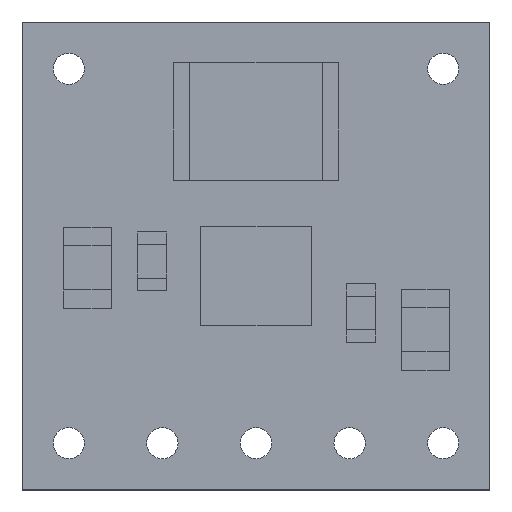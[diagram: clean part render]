
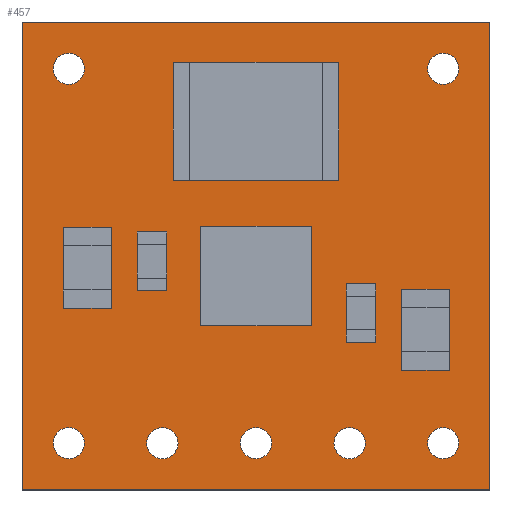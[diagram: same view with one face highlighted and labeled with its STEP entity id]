
A CAD part, top view. The second image highlights one B-rep face of the part: STEP entity #457.
In plain terms, the highlighted planar face has unit normal (0, 0, 1).
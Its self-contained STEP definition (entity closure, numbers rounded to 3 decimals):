
#76 = VERTEX_POINT('',#77);
#77 = CARTESIAN_POINT('',(0.,0.,0.999));
#83 = EDGE_CURVE('',#76,#84,#86,.T.);
#84 = VERTEX_POINT('',#85);
#85 = CARTESIAN_POINT('',(12.7,0.,0.999));
#86 = LINE('',#87,#88);
#87 = CARTESIAN_POINT('',(0.,0.,0.999));
#88 = VECTOR('',#89,1.);
#89 = DIRECTION('',(1.,0.,0.));
#114 = EDGE_CURVE('',#84,#115,#117,.T.);
#115 = VERTEX_POINT('',#116);
#116 = CARTESIAN_POINT('',(12.7,12.7,0.999));
#117 = LINE('',#118,#119);
#118 = CARTESIAN_POINT('',(12.7,0.,0.999));
#119 = VECTOR('',#120,1.);
#120 = DIRECTION('',(0.,1.,0.));
#145 = EDGE_CURVE('',#115,#146,#148,.T.);
#146 = VERTEX_POINT('',#147);
#147 = CARTESIAN_POINT('',(0.,12.7,0.999));
#148 = LINE('',#149,#150);
#149 = CARTESIAN_POINT('',(12.7,12.7,0.999));
#150 = VECTOR('',#151,1.);
#151 = DIRECTION('',(-1.,0.,0.));
#176 = EDGE_CURVE('',#146,#76,#177,.T.);
#177 = LINE('',#178,#179);
#178 = CARTESIAN_POINT('',(0.,12.7,0.999));
#179 = VECTOR('',#180,1.);
#180 = DIRECTION('',(0.,-1.,0.));
#200 = VERTEX_POINT('',#201);
#201 = CARTESIAN_POINT('',(1.695,1.27,0.999));
#207 = EDGE_CURVE('',#200,#200,#208,.T.);
#208 = CIRCLE('',#209,0.425);
#209 = AXIS2_PLACEMENT_3D('',#210,#211,#212);
#210 = CARTESIAN_POINT('',(1.27,1.27,0.999));
#211 = DIRECTION('',(0.,0.,1.));
#212 = DIRECTION('',(1.,0.,-0.));
#233 = VERTEX_POINT('',#234);
#234 = CARTESIAN_POINT('',(1.695,11.43,0.999));
#240 = EDGE_CURVE('',#233,#233,#241,.T.);
#241 = CIRCLE('',#242,0.425);
#242 = AXIS2_PLACEMENT_3D('',#243,#244,#245);
#243 = CARTESIAN_POINT('',(1.27,11.43,0.999));
#244 = DIRECTION('',(0.,0.,1.));
#245 = DIRECTION('',(1.,0.,-0.));
#266 = VERTEX_POINT('',#267);
#267 = CARTESIAN_POINT('',(4.235,1.27,0.999));
#273 = EDGE_CURVE('',#266,#266,#274,.T.);
#274 = CIRCLE('',#275,0.425);
#275 = AXIS2_PLACEMENT_3D('',#276,#277,#278);
#276 = CARTESIAN_POINT('',(3.81,1.27,0.999));
#277 = DIRECTION('',(0.,0.,1.));
#278 = DIRECTION('',(1.,0.,-0.));
#299 = VERTEX_POINT('',#300);
#300 = CARTESIAN_POINT('',(6.775,1.27,0.999));
#306 = EDGE_CURVE('',#299,#299,#307,.T.);
#307 = CIRCLE('',#308,0.425);
#308 = AXIS2_PLACEMENT_3D('',#309,#310,#311);
#309 = CARTESIAN_POINT('',(6.35,1.27,0.999));
#310 = DIRECTION('',(0.,0.,1.));
#311 = DIRECTION('',(1.,0.,-0.));
#332 = VERTEX_POINT('',#333);
#333 = CARTESIAN_POINT('',(9.315,1.27,0.999));
#339 = EDGE_CURVE('',#332,#332,#340,.T.);
#340 = CIRCLE('',#341,0.425);
#341 = AXIS2_PLACEMENT_3D('',#342,#343,#344);
#342 = CARTESIAN_POINT('',(8.89,1.27,0.999));
#343 = DIRECTION('',(0.,0.,1.));
#344 = DIRECTION('',(1.,0.,-0.));
#365 = VERTEX_POINT('',#366);
#366 = CARTESIAN_POINT('',(11.855,11.43,0.999));
#372 = EDGE_CURVE('',#365,#365,#373,.T.);
#373 = CIRCLE('',#374,0.425);
#374 = AXIS2_PLACEMENT_3D('',#375,#376,#377);
#375 = CARTESIAN_POINT('',(11.43,11.43,0.999));
#376 = DIRECTION('',(0.,0.,1.));
#377 = DIRECTION('',(1.,0.,-0.));
#398 = VERTEX_POINT('',#399);
#399 = CARTESIAN_POINT('',(11.855,1.27,0.999));
#405 = EDGE_CURVE('',#398,#398,#406,.T.);
#406 = CIRCLE('',#407,0.425);
#407 = AXIS2_PLACEMENT_3D('',#408,#409,#410);
#408 = CARTESIAN_POINT('',(11.43,1.27,0.999));
#409 = DIRECTION('',(0.,0.,1.));
#410 = DIRECTION('',(1.,0.,-0.));
#457 = ADVANCED_FACE('',(#458,#464,#467,#470,#473,#476,#479,#482),#485,
  .T.);
#458 = FACE_BOUND('',#459,.T.);
#459 = EDGE_LOOP('',(#460,#461,#462,#463));
#460 = ORIENTED_EDGE('',*,*,#83,.T.);
#461 = ORIENTED_EDGE('',*,*,#114,.T.);
#462 = ORIENTED_EDGE('',*,*,#145,.T.);
#463 = ORIENTED_EDGE('',*,*,#176,.T.);
#464 = FACE_BOUND('',#465,.T.);
#465 = EDGE_LOOP('',(#466));
#466 = ORIENTED_EDGE('',*,*,#207,.F.);
#467 = FACE_BOUND('',#468,.T.);
#468 = EDGE_LOOP('',(#469));
#469 = ORIENTED_EDGE('',*,*,#240,.F.);
#470 = FACE_BOUND('',#471,.T.);
#471 = EDGE_LOOP('',(#472));
#472 = ORIENTED_EDGE('',*,*,#273,.F.);
#473 = FACE_BOUND('',#474,.T.);
#474 = EDGE_LOOP('',(#475));
#475 = ORIENTED_EDGE('',*,*,#306,.F.);
#476 = FACE_BOUND('',#477,.T.);
#477 = EDGE_LOOP('',(#478));
#478 = ORIENTED_EDGE('',*,*,#339,.F.);
#479 = FACE_BOUND('',#480,.T.);
#480 = EDGE_LOOP('',(#481));
#481 = ORIENTED_EDGE('',*,*,#372,.F.);
#482 = FACE_BOUND('',#483,.T.);
#483 = EDGE_LOOP('',(#484));
#484 = ORIENTED_EDGE('',*,*,#405,.F.);
#485 = PLANE('',#486);
#486 = AXIS2_PLACEMENT_3D('',#487,#488,#489);
#487 = CARTESIAN_POINT('',(6.35,6.35,0.999));
#488 = DIRECTION('',(0.,0.,1.));
#489 = DIRECTION('',(1.,0.,-0.));
